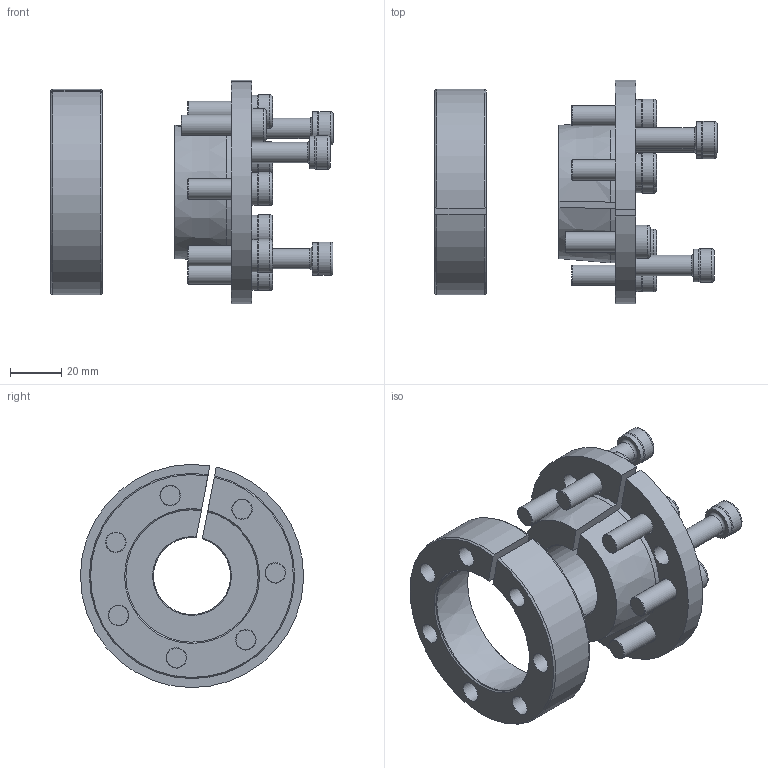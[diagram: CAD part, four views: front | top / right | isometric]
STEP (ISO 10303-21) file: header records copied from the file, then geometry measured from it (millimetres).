
FILE_DESCRIPTION((''),'2;1');
FILE_NAME('M:\Disegni 3D\CALETTATORI\RCK 15\x80\35x80 - 06152035\Assieme.stp','2015-12-16T15:17:53',('fabietto'),(''),'Autodesk Inventor 2013','Autodesk Inventor 2013','');
FILE_SCHEMA(('AUTOMOTIVE_DESIGN { 1 0 10303 214 1 1 1 1 }'));
Length unit declared in the file: millimetre
Products named in the file (5): Assieme; Anello esterno; Parte1; Vite di bloccaggio M8x25 - Brunita; Vite di bloccaggio M8x25 - Zincata
Assembly tree (12 placements, depth 2):
  Assieme
    Anello esterno
    Parte1
    Vite di bloccaggio M8x25 - Brunita  x7
    Vite di bloccaggio M8x25 - Zincata  x3
Bounding box: 109.98 x 86.98 x 86.99 mm (x, y, z)
Volume: 140695.2 mm3; surface area: 49911.6 mm2
Topology: 12 solids, 12 shells, 329 faces, 705 edges, 420 vertices
Faces by surface type: plane 169, cylinder 112, torus 30, cone 18
Full cylindrical faces by diameter (mm): 8 x20, 9 x7, 12.7 x10, 13 x10
Entity records: 2837 total; most frequent: DIRECTION 492, CARTESIAN_POINT 456, ORIENTED_EDGE 380, AXIS2_PLACEMENT_3D 196, EDGE_CURVE 190, EDGE_LOOP 166, VERTEX_POINT 136, VECTOR 100
